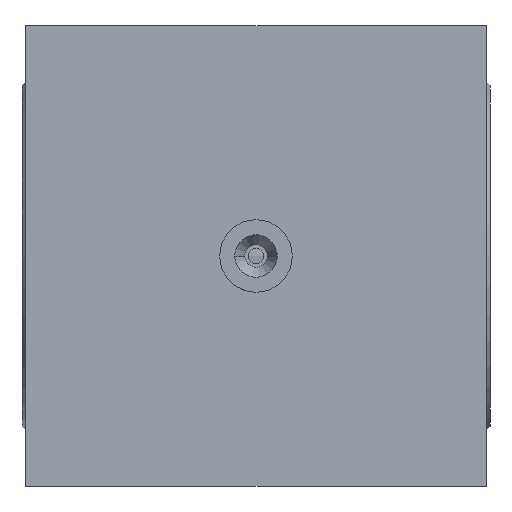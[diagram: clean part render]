
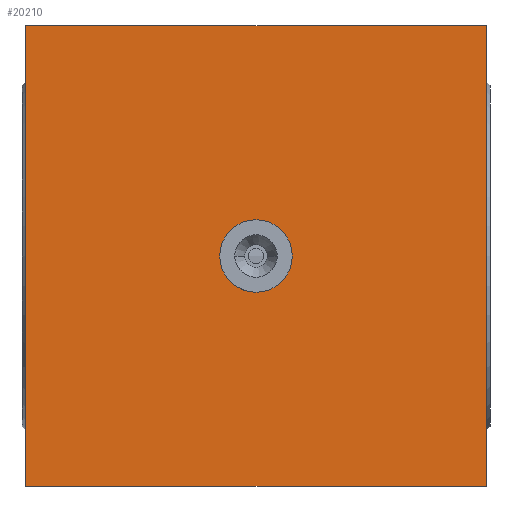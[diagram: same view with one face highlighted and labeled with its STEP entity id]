
A CAD part, front view. The second image highlights one B-rep face of the part: STEP entity #20210.
In plain terms, the highlighted planar face has unit normal (0, -1, 0).
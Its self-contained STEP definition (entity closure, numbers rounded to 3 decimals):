
#9520=CARTESIAN_POINT('',(17.17,0.,-14.465));
#9530=VERTEX_POINT('',#9520);
#9910=CARTESIAN_POINT('',(17.17,0.,-19.876));
#9920=VERTEX_POINT('',#9910);
#9950=CARTESIAN_POINT('',(17.17,0.,-17.17));
#9960=DIRECTION('',(0.,-1.,0.));
#9970=DIRECTION('',(0.,0.,-1.));
#9980=AXIS2_PLACEMENT_3D('',#9950,#9960,#9970);
#9990=CIRCLE('',#9980,2.705);
#10000=EDGE_CURVE('',#9530,#9920,#9990,.T.);
#18600=CARTESIAN_POINT('',(0.,0.,-34.341));
#18610=VERTEX_POINT('',#18600);
#18760=CARTESIAN_POINT('',(0.,0.,0.));
#18770=VERTEX_POINT('',#18760);
#18800=CARTESIAN_POINT('',(0.,0.,0.));
#18810=DIRECTION('',(0.,0.,1.));
#18820=VECTOR('',#18810,1000.);
#18830=LINE('',#18800,#18820);
#18840=EDGE_CURVE('',#18610,#18770,#18830,.T.);
#19070=CARTESIAN_POINT('',(34.341,0.,0.));
#19080=VERTEX_POINT('',#19070);
#19110=CARTESIAN_POINT('',(0.,0.,0.));
#19120=DIRECTION('',(1.,0.,0.));
#19130=VECTOR('',#19120,1000.);
#19140=LINE('',#19110,#19130);
#19150=EDGE_CURVE('',#18770,#19080,#19140,.T.);
#19430=CARTESIAN_POINT('',(34.341,0.,-34.341));
#19440=VERTEX_POINT('',#19430);
#19470=CARTESIAN_POINT('',(34.341,0.,0.));
#19480=DIRECTION('',(0.,0.,-1.));
#19490=VECTOR('',#19480,1000.);
#19500=LINE('',#19470,#19490);
#19510=EDGE_CURVE('',#19080,#19440,#19500,.T.);
#19840=CARTESIAN_POINT('',(0.,0.,-34.341));
#19850=DIRECTION('',(-1.,0.,0.));
#19860=VECTOR('',#19850,1000.);
#19870=LINE('',#19840,#19860);
#19880=EDGE_CURVE('',#19440,#18610,#19870,.T.);
#20050=CARTESIAN_POINT('',(0.,0.,-34.341));
#20060=DIRECTION('',(0.,-1.,0.));
#20070=DIRECTION('',(0.,0.,-1.));
#20080=AXIS2_PLACEMENT_3D('',#20050,#20060,#20070);
#20090=PLANE('',#20080);
#20100=EDGE_CURVE('',#9920,#9530,#9990,.T.);
#20110=ORIENTED_EDGE('',*,*,#20100,.F.);
#20120=ORIENTED_EDGE('',*,*,#10000,.F.);
#20130=EDGE_LOOP('',(#20120,#20110));
#20140=FACE_BOUND('',#20130,.T.);
#20150=ORIENTED_EDGE('',*,*,#19150,.F.);
#20160=ORIENTED_EDGE('',*,*,#19510,.F.);
#20170=ORIENTED_EDGE('',*,*,#19880,.F.);
#20180=ORIENTED_EDGE('',*,*,#18840,.F.);
#20190=EDGE_LOOP('',(#20180,#20170,#20160,#20150));
#20200=FACE_OUTER_BOUND('',#20190,.T.);
#20210=ADVANCED_FACE('',(#20140,#20200),#20090,.T.);
